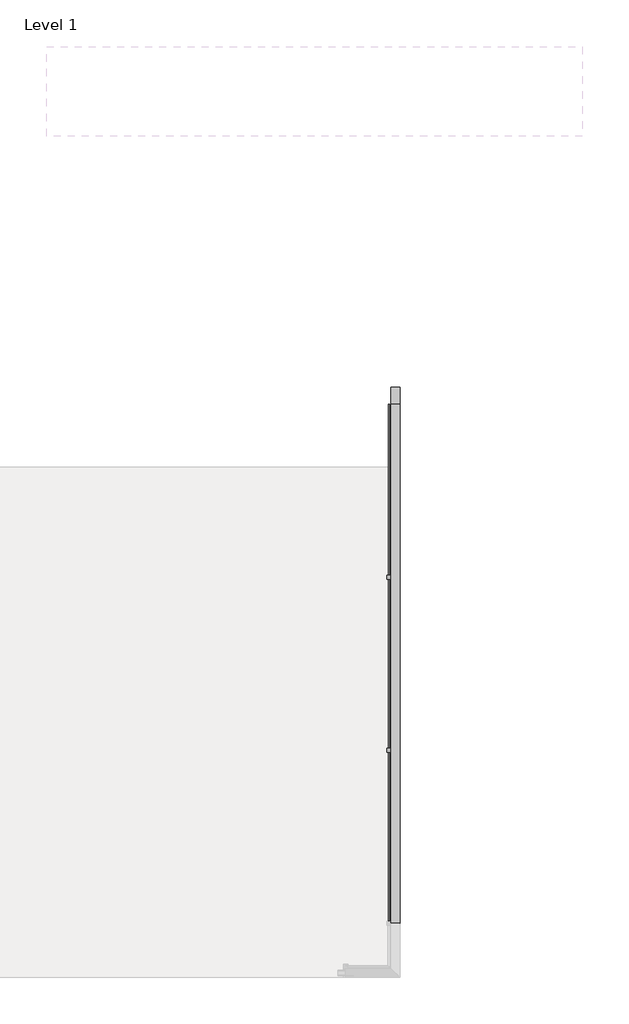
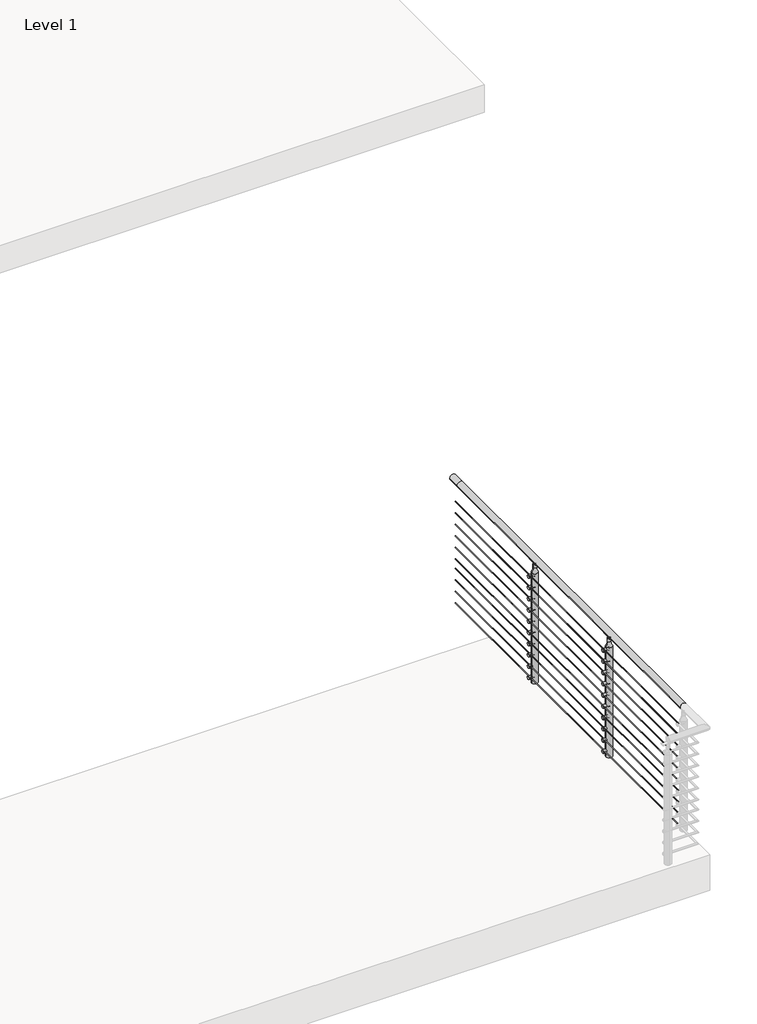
# One storey, part 7 of 21: 1 railing.
"""IFC4 building model written with IfcOpenShell, lengths in millimetres."""

import ifcopenshell
import ifcopenshell.guid

model = None  # the IFC model being written
_history = None  # IfcOwnerHistory: only IFC2X3 demands one
_inside = {}  # id of a spatial element -> (the spatial element, [elements in it])
_under = {}  # id of a project, library or spatial element -> (it, [spatial elements below it])
_declared = {}  # id of a project -> (the project, [libraries it declares])
_typed = {}  # id of a type object -> (the type object, [elements of that type])
_made_of = {}  # id of a material, layer set ... -> (it, [elements and type objects made of it])


def new_model(schema):
    """Start an empty IFC model of exactly this schema.

    Asked for "IFC4X3", IfcOpenShell would pick the latest addendum, in which some entities
    have other attributes; the version numbers below select the first issue.
    IFC2X3 requires an IfcOwnerHistory on every rooted entity: one is made here for all.
    """
    global model, _history
    if schema == "IFC4X3":
        model = ifcopenshell.file(schema_version=(4, 3, 0, 0))
    else:
        model = ifcopenshell.file(schema=schema)
    _inside.clear()
    _under.clear()
    _declared.clear()
    _typed.clear()
    _made_of.clear()
    _history = None
    if model.schema == "IFC2X3":
        org = make("IfcOrganization", Name="unknown")
        user = make(
            "IfcPersonAndOrganization",
            ThePerson=make("IfcPerson", FamilyName="unknown"),
            TheOrganization=org,
        )
        app = make(
            "IfcApplication",
            ApplicationDeveloper=org,
            Version="unknown",
            ApplicationFullName="unknown",
            ApplicationIdentifier="unknown",
        )
        _history = make(
            "IfcOwnerHistory",
            OwningUser=user,
            OwningApplication=app,
            ChangeAction="ADDED",
            CreationDate=0,
        )
    return model


def make(cls, **values):
    """One entity of the class cls with the attributes given. An attribute that is None is left unset."""
    return model.create_entity(
        cls, **{name: value for name, value in values.items() if value is not None}
    )


def rooted(cls, **values):
    """An entity with a GlobalId (a new one), such as an element, a storey or a relation."""
    return make(cls, GlobalId=ifcopenshell.guid.new(), OwnerHistory=_history, **values)


def si_unit(unit_type, name, prefix=None):
    """IfcSIUnit, for example si_unit("LENGTHUNIT", "METRE", prefix="MILLI")."""
    return make("IfcSIUnit", UnitType=unit_type, Prefix=prefix, Name=name)


def assignment(units):
    """IfcUnitAssignment: the units of a project."""
    return None if units is None else make("IfcUnitAssignment", Units=units)


def point(xyz):
    """IfcCartesianPoint."""
    return None if xyz is None else make("IfcCartesianPoint", Coordinates=xyz)


def direction(xyz):
    """IfcDirection."""
    return None if xyz is None else make("IfcDirection", DirectionRatios=xyz)


def frame(location, z_axis=None, x_axis=None):
    """IfcAxis2Placement3D, a coordinate frame: its origin and axes. An axis left out is left unset."""
    return make(
        "IfcAxis2Placement3D",
        Location=point(location),
        Axis=direction(z_axis),
        RefDirection=direction(x_axis),
    )


def frame_2d(location, x_axis=None):
    """IfcAxis2Placement2D, a coordinate frame in the plane: its origin and x axis."""
    return make(
        "IfcAxis2Placement2D", Location=point(location), RefDirection=direction(x_axis)
    )


def origin():
    """The frame at (0, 0, 0) with its axes left unset."""
    return frame((0.0, 0.0, 0.0))


def place(relative_to, where):
    """IfcLocalPlacement: puts the frame where relative to a parent placement (None: the world)."""
    return make(
        "IfcLocalPlacement", PlacementRelTo=relative_to, RelativePlacement=where
    )


def context(
    kind, dimensions, precision=None, world=None, true_north=None, identifier=None
):
    """IfcGeometricRepresentationContext, for example the 3D "Model" context."""
    return make(
        "IfcGeometricRepresentationContext",
        ContextIdentifier=identifier,
        ContextType=kind,
        CoordinateSpaceDimension=dimensions,
        Precision=precision,
        WorldCoordinateSystem=world,
        TrueNorth=true_north,
    )


def project(units=None, contexts=None):
    """IfcProject with its units and contexts."""
    return rooted(
        "IfcProject",
        Name="project",
        RepresentationContexts=contexts,
        UnitsInContext=assignment(units),
    )


def spatial(cls, under=None, at=None, **own):
    """A site, building, storey or space (cls), placed at a placement, below another one or the project."""
    s = rooted(cls, ObjectPlacement=at, **own)
    if under is not None:
        _under.setdefault(under.id(), (under, []))[1].append(s)
    return s


def polyline(points):
    """IfcPolyline through the points."""
    return make("IfcPolyline", Points=[point(p) for p in points])


def circle_curve(where, radius):
    """IfcCircle in the frame where."""
    return make("IfcCircle", Position=where, Radius=radius)


def ellipse_curve(where, semi_axis1, semi_axis2):
    """IfcEllipse in the frame where."""
    return make(
        "IfcEllipse", Position=where, SemiAxis1=semi_axis1, SemiAxis2=semi_axis2
    )


def trimmed(basis, trim1, trim2, sense, master):
    """IfcTrimmedCurve: the piece of a basis curve between two trims."""
    return make(
        "IfcTrimmedCurve",
        BasisCurve=basis,
        Trim1=trim1,
        Trim2=trim2,
        SenseAgreement=sense,
        MasterRepresentation=master,
    )


def segment(curve, same_sense, transition):
    """IfcCompositeCurveSegment."""
    return make(
        "IfcCompositeCurveSegment",
        Transition=transition,
        SameSense=same_sense,
        ParentCurve=curve,
    )


def composite_curve(segments, self_intersect=None):
    """IfcCompositeCurve: segments joined end to end."""
    return make("IfcCompositeCurve", Segments=segments, SelfIntersect=self_intersect)


def outline(outer, holes=None, kind="AREA"):
    """IfcArbitraryClosedProfileDef: a profile drawn as a closed curve; with holes, ...WithVoids."""
    if holes is None:
        return make("IfcArbitraryClosedProfileDef", ProfileType=kind, OuterCurve=outer)
    return make(
        "IfcArbitraryProfileDefWithVoids",
        ProfileType=kind,
        OuterCurve=outer,
        InnerCurves=holes,
    )


def extrude(swept, where, along, depth):
    """IfcExtrudedAreaSolid: the profile swept, set in the frame where, extruded along a direction by depth."""
    return make(
        "IfcExtrudedAreaSolid",
        SweptArea=swept,
        Position=where,
        ExtrudedDirection=direction(along),
        Depth=depth,
    )


def shape(context_of_items, identifier, shape_type, items):
    """IfcShapeRepresentation: the items that make up one representation, for example the "Body"."""
    return make(
        "IfcShapeRepresentation",
        ContextOfItems=context_of_items,
        RepresentationIdentifier=identifier,
        RepresentationType=shape_type,
        Items=items,
    )


def made_of(thing, what):
    """Note that an element or type object is made of a material, layer set ...; save() writes the relation."""
    if what is not None:
        _made_of.setdefault(what.id(), (what, []))[1].append(thing)
    return thing


def element(
    cls,
    number,
    at=None,
    inside=None,
    cuts=None,
    type_object=None,
    material=None,
    context=None,
    identifier="Body",
    shape_type=None,
    held_by="IfcProductDefinitionShape",
    body=None,
    shapes=None,
    **own,
):
    """One element of the class cls, such as IfcWall. Its Tag is "e" and its number.

    at: its placement. inside: the storey or other place that contains it. cuts: it is an
    opening in that element (IfcRelVoidsElement). A single representation is given by context,
    identifier, shape_type and body (its items); several are given by shapes. held_by: the class
    of the entity that holds the representations. save() writes the other relations.
    """
    e = rooted(cls, Tag="e%d" % number, ObjectPlacement=at, **own)
    if body is not None:
        shapes = [shape(context, identifier, shape_type, body)]
    if shapes is not None:
        e.Representation = make(held_by, Representations=shapes)
    if inside is not None:
        _inside.setdefault(inside.id(), (inside, []))[1].append(e)
    if cuts is not None:
        rooted(
            "IfcRelVoidsElement", RelatingBuildingElement=cuts, RelatedOpeningElement=e
        )
    if type_object is not None:
        _typed.setdefault(type_object.id(), (type_object, []))[1].append(e)
    return made_of(e, material)


def aggregate(whole, parts):
    """IfcRelAggregates: a whole, such as a stair, and the parts it consists of."""
    return rooted("IfcRelAggregates", RelatingObject=whole, RelatedObjects=parts)


def save(model, path):
    """Write the relations noted so far, then the file.

    IfcRelAggregates (storeys below a building ...), IfcRelContainedInSpatialStructure (elements
    in a storey), IfcRelDefinesByType, IfcRelAssociatesMaterial and IfcRelDeclares: one each for
    every whole, place, type object, material and project.
    """
    for whole, parts in _under.values():
        aggregate(whole, parts)
    for where, things in _inside.values():
        rooted(
            "IfcRelContainedInSpatialStructure",
            RelatedElements=things,
            RelatingStructure=where,
        )
    for kind, things in _typed.values():
        rooted("IfcRelDefinesByType", RelatedObjects=things, RelatingType=kind)
    for what, things in _made_of.values():
        rooted("IfcRelAssociatesMaterial", RelatedObjects=things, RelatingMaterial=what)
    for by, libraries in _declared.values():
        rooted("IfcRelDeclares", RelatingContext=by, RelatedDefinitions=libraries)
    model.write(path)


def plane_surface(at):
    """IfcPlane: the flat surface through the origin of the frame at, square to its z axis."""
    return make("IfcPlane", Position=at)


def cylinder_surface(at, radius):
    """IfcCylindricalSurface: all points at the distance radius from the z axis of the frame at."""
    return make("IfcCylindricalSurface", Position=at, Radius=radius)


def revolved_surface(curve, axis_point, axis_direction):
    """IfcSurfaceOfRevolution: the curve turned about the line through axis_point along axis_direction."""
    return make(
        "IfcSurfaceOfRevolution",
        SweptCurve=make("IfcArbitraryOpenProfileDef", ProfileType="CURVE", Curve=curve),
        AxisPosition=make("IfcAxis1Placement", Location=point(axis_point), Axis=direction(axis_direction)),
    )


def advanced_brep(points, edges, surfaces, faces):
    """IfcAdvancedBrep: a solid bounded by faces that lie on surfaces and meet in shared edges.

    An edge is (start, end): straight between two places in points (the first is 0);
    or (start, end, curve); or (start, end, curve, False) where it runs against its curve.
    A face is (place in surfaces, loops), or (place, loops, False) where it looks against
    its surface's normal. A loop lists edges by number (the first is 1), with a minus sign
    where the edge is run from its end to its start. The first loop is the outer one.
    """
    corners = [point(p) for p in points]
    vertices = [make("IfcVertexPoint", VertexGeometry=c) for c in corners]
    made = []
    for start, end, *more in edges:
        made.append(
            make(
                "IfcEdgeCurve",
                EdgeStart=vertices[start],
                EdgeEnd=vertices[end],
                EdgeGeometry=more[0] if more else make("IfcPolyline", Points=[corners[start], corners[end]]),
                SameSense=more[1] if len(more) > 1 else True,
            )
        )
    hull = []
    for where, loops, *sense in faces:
        bounds = []
        for j, loop in enumerate(loops):
            ring = [make("IfcOrientedEdge", EdgeElement=made[abs(k) - 1], Orientation=k > 0) for k in loop]
            bounds.append(
                make(
                    "IfcFaceOuterBound" if j == 0 else "IfcFaceBound",
                    Bound=make("IfcEdgeLoop", EdgeList=ring),
                    Orientation=True,
                )
            )
        hull.append(make("IfcAdvancedFace", Bounds=bounds, FaceSurface=surfaces[where], SameSense=sense[0] if sense else True))
    return make("IfcAdvancedBrep", Outer=make("IfcClosedShell", CfsFaces=hull))


model = new_model("IFC4")

# Units and contexts
model_context = context("Model", 3, world=origin())
ifc_project = project(units=[si_unit("LENGTHUNIT", "METRE", prefix="MILLI")], contexts=[model_context])

# Site, building, storey
site = spatial("IfcSite", under=ifc_project)
building = spatial("IfcBuilding", under=site)
storey = spatial("IfcBuildingStorey", under=building, Name="Level 1", Elevation=0.0)

# Railing
placement = place(None, origin())
element("IfcRailing", 1, ObjectType="VIVA-CIRCA-Multiline-Cable-Weld Mount-Straight", at=placement, inside=storey, context=model_context, shape_type="SolidModel", body=[
    advanced_brep(
    [(45346.7855247, -73467.0943064, 1054.1), (45295.9855247, -73467.0943064, 1054.1), (45346.7855247, -70419.0943064, 1054.1), (45295.9855247, -70419.0943064, 1054.1), (45346.7855247, -70317.4943064, 1054.1), (45295.9855247, -70317.4943064, 1054.1)],
    [
        (0, 1, circle_curve(frame((45321.3855247, -73467.0943064, 1054.1), z_axis=(0.0, -1.0, 0.0), x_axis=(-1.0, 0.0, 0.0)), 25.4)),
        (1, 0, circle_curve(frame((45321.3855247, -73467.0943064, 1054.1), z_axis=(0.0, -1.0, 0.0), x_axis=(-1.0, 0.0, 0.0)), 25.4)),
        (0, 2),
        (2, 3, circle_curve(frame((45321.3855247, -70419.0943064, 1054.1), z_axis=(0.0, -1.0, 0.0), x_axis=(-1.0, 0.0, 0.0)), 25.4)),
        (3, 1),
        (3, 2, circle_curve(frame((45321.3855247, -70419.0943064, 1054.1), z_axis=(0.0, -1.0, 0.0), x_axis=(-1.0, 0.0, 0.0)), 25.4)),
        (4, 5, circle_curve(frame((45321.3855247, -70317.4943064, 1054.1), z_axis=(0.0, 1.0, 0.0), x_axis=(-1.0, 0.0, 0.0)), 25.4)),
        (5, 4, circle_curve(frame((45321.3855247, -70317.4943064, 1054.1), z_axis=(0.0, 1.0, 0.0), x_axis=(-1.0, 0.0, 0.0)), 25.4)),
        (2, 4),
        (5, 3),
    ],
    [
        plane_surface(frame((45321.3855247, -73467.0943064, 1079.5), z_axis=(0.0, -1.0, 0.0), x_axis=(0.0, 0.0, 1.0))),
        cylinder_surface(frame((45321.3855247, -73467.0943064, 1054.1), z_axis=(0.0, -1.0, 0.0), x_axis=(-1.0, 0.0, 0.0)), 25.4),
        plane_surface(frame((45321.3855247, -70317.4943064, 1079.5), z_axis=(0.0, 1.0, 0.0), x_axis=(0.0, 0.0, 1.0))),
        cylinder_surface(frame((45321.3855247, -70419.0943064, 1054.1), z_axis=(0.0, -1.0, 0.0), x_axis=(-1.0, 0.0, 0.0)), 25.4),
    ],
    [
        (0, [[1, 2]]),
        (1, [[-1, 3, 4, 5]]),
        (1, [[-2, -5, 6, -3]]),
        (2, [[7, 8]]),
        (3, [[-4, 9, -8, 10]]),
        (3, [[-6, -10, -7, -9]]),
    ],
),
    extrude(outline(composite_curve([segment(trimmed(circle_curve(frame_2d((924.7124, 45283.2855247)), 2.3876), [point((924.7124, 45280.8979247))], [point((924.7124, 45285.6731247))], False, "CARTESIAN"), True, "CONTINUOUS"), segment(trimmed(circle_curve(frame_2d((924.7124, 45283.2855247)), 2.3876), [point((924.7124, 45285.6731247))], [point((924.7124, 45280.8979247))], False, "CARTESIAN"), True, "CONTINUOUS")], self_intersect=False)), frame((0.0, -73467.0943064, 0.0), z_axis=(0.0, 1.0, 0.0), x_axis=(0.0, 0.0, 1.0)), (0.0, 0.0, 1.0), 3048.0),
    extrude(outline(composite_curve([segment(trimmed(circle_curve(frame_2d((829.4624, 45283.2855247)), 2.3876), [point((829.4624, 45280.8979247))], [point((829.4624, 45285.6731247))], False, "CARTESIAN"), True, "CONTINUOUS"), segment(trimmed(circle_curve(frame_2d((829.4624, 45283.2855247)), 2.3876), [point((829.4624, 45285.6731247))], [point((829.4624, 45280.8979247))], False, "CARTESIAN"), True, "CONTINUOUS")], self_intersect=False)), frame((0.0, -73467.0943064, 0.0), z_axis=(0.0, 1.0, 0.0), x_axis=(0.0, 0.0, 1.0)), (0.0, 0.0, 1.0), 3048.0),
    extrude(outline(composite_curve([segment(trimmed(circle_curve(frame_2d((734.2124, 45283.2855247)), 2.3876), [point((734.2124, 45280.8979247))], [point((734.2124, 45285.6731247))], False, "CARTESIAN"), True, "CONTINUOUS"), segment(trimmed(circle_curve(frame_2d((734.2124, 45283.2855247)), 2.3876), [point((734.2124, 45285.6731247))], [point((734.2124, 45280.8979247))], False, "CARTESIAN"), True, "CONTINUOUS")], self_intersect=False)), frame((0.0, -73467.0943064, 0.0), z_axis=(0.0, 1.0, 0.0), x_axis=(0.0, 0.0, 1.0)), (0.0, 0.0, 1.0), 3048.0),
    extrude(outline(composite_curve([segment(trimmed(circle_curve(frame_2d((638.9624, 45283.2855247)), 2.3876), [point((638.9624, 45280.8979247))], [point((638.9624, 45285.6731247))], False, "CARTESIAN"), True, "CONTINUOUS"), segment(trimmed(circle_curve(frame_2d((638.9624, 45283.2855247)), 2.3876), [point((638.9624, 45285.6731247))], [point((638.9624, 45280.8979247))], False, "CARTESIAN"), True, "CONTINUOUS")], self_intersect=False)), frame((0.0, -73467.0943064, 0.0), z_axis=(0.0, 1.0, 0.0), x_axis=(0.0, 0.0, 1.0)), (0.0, 0.0, 1.0), 3048.0),
    extrude(outline(composite_curve([segment(trimmed(circle_curve(frame_2d((543.7124, 45283.2855247)), 2.3876), [point((543.7124, 45280.8979247))], [point((543.7124, 45285.6731247))], False, "CARTESIAN"), True, "CONTINUOUS"), segment(trimmed(circle_curve(frame_2d((543.7124, 45283.2855247)), 2.3876), [point((543.7124, 45285.6731247))], [point((543.7124, 45280.8979247))], False, "CARTESIAN"), True, "CONTINUOUS")], self_intersect=False)), frame((0.0, -73467.0943064, 0.0), z_axis=(0.0, 1.0, 0.0), x_axis=(0.0, 0.0, 1.0)), (0.0, 0.0, 1.0), 3048.0),
    extrude(outline(composite_curve([segment(trimmed(circle_curve(frame_2d((448.4624, 45283.2855247)), 2.3876), [point((448.4624, 45280.8979247))], [point((448.4624, 45285.6731247))], False, "CARTESIAN"), True, "CONTINUOUS"), segment(trimmed(circle_curve(frame_2d((448.4624, 45283.2855247)), 2.3876), [point((448.4624, 45285.6731247))], [point((448.4624, 45280.8979247))], False, "CARTESIAN"), True, "CONTINUOUS")], self_intersect=False)), frame((0.0, -73467.0943064, 0.0), z_axis=(0.0, 1.0, 0.0), x_axis=(0.0, 0.0, 1.0)), (0.0, 0.0, 1.0), 3048.0),
    extrude(outline(composite_curve([segment(trimmed(circle_curve(frame_2d((365.9124, 45283.2855247)), 2.3876), [point((365.9124, 45280.8979247))], [point((365.9124, 45285.6731247))], False, "CARTESIAN"), True, "CONTINUOUS"), segment(trimmed(circle_curve(frame_2d((365.9124, 45283.2855247)), 2.3876), [point((365.9124, 45285.6731247))], [point((365.9124, 45280.8979247))], False, "CARTESIAN"), True, "CONTINUOUS")], self_intersect=False)), frame((0.0, -73467.0943064, 0.0), z_axis=(0.0, 1.0, 0.0), x_axis=(0.0, 0.0, 1.0)), (0.0, 0.0, 1.0), 3048.0),
    extrude(outline(composite_curve([segment(trimmed(circle_curve(frame_2d((270.6624, 45283.2855247)), 2.3876), [point((270.6624, 45280.8979247))], [point((270.6624, 45285.6731247))], False, "CARTESIAN"), True, "CONTINUOUS"), segment(trimmed(circle_curve(frame_2d((270.6624, 45283.2855247)), 2.3876), [point((270.6624, 45285.6731247))], [point((270.6624, 45280.8979247))], False, "CARTESIAN"), True, "CONTINUOUS")], self_intersect=False)), frame((0.0, -73467.0943064, 0.0), z_axis=(0.0, 1.0, 0.0), x_axis=(0.0, 0.0, 1.0)), (0.0, 0.0, 1.0), 3048.0),
    extrude(outline(composite_curve([segment(trimmed(circle_curve(frame_2d((175.4124, 45283.2855247)), 2.3876), [point((175.4124, 45280.8979247))], [point((175.4124, 45285.6731247))], False, "CARTESIAN"), True, "CONTINUOUS"), segment(trimmed(circle_curve(frame_2d((175.4124, 45283.2855247)), 2.3876), [point((175.4124, 45285.6731247))], [point((175.4124, 45280.8979247))], False, "CARTESIAN"), True, "CONTINUOUS")], self_intersect=False)), frame((0.0, -73467.0943064, 0.0), z_axis=(0.0, 1.0, 0.0), x_axis=(0.0, 0.0, 1.0)), (0.0, 0.0, 1.0), 3048.0),
    extrude(outline(composite_curve([segment(trimmed(circle_curve(frame_2d((80.1624, 45283.2855247)), 2.3876), [point((80.1624, 45280.8979247))], [point((80.1624, 45285.6731247))], False, "CARTESIAN"), True, "CONTINUOUS"), segment(trimmed(circle_curve(frame_2d((80.1624, 45283.2855247)), 2.3876), [point((80.1624, 45285.6731247))], [point((80.1624, 45280.8979247))], False, "CARTESIAN"), True, "CONTINUOUS")], self_intersect=False)), frame((0.0, -73467.0943064, 0.0), z_axis=(0.0, 1.0, 0.0), x_axis=(0.0, 0.0, 1.0)), (0.0, 0.0, 1.0), 3048.0),
    extrude(outline(composite_curve([segment(trimmed(circle_curve(frame_2d((-71434.3005564, 76.2)), 12.666458), [point((-71421.6340985, 76.2))], [point((-71446.9670144, 76.2))], False, "CARTESIAN"), True, "CONTINUOUS"), segment(trimmed(circle_curve(frame_2d((-71434.3005564, 76.2)), 12.666458), [point((-71446.9670144, 76.2))], [point((-71421.6340985, 76.2))], False, "CARTESIAN"), True, "CONTINUOUS")], self_intersect=False)), frame((45270.5855247, 0.0, 0.0), z_axis=(1.0, 0.0, 0.0), x_axis=(0.0, 1.0, 0.0)), (0.0, 0.0, 1.0), 50.8),
    extrude(outline(composite_curve([segment(trimmed(circle_curve(frame_2d((-71434.3005564, 170.0388889)), 12.666458), [point((-71421.6340985, 170.0388889))], [point((-71446.9670144, 170.0388889))], False, "CARTESIAN"), True, "CONTINUOUS"), segment(trimmed(circle_curve(frame_2d((-71434.3005564, 170.0388889)), 12.666458), [point((-71446.9670144, 170.0388889))], [point((-71421.6340985, 170.0388889))], False, "CARTESIAN"), True, "CONTINUOUS")], self_intersect=False)), frame((45270.5855247, 0.0, 0.0), z_axis=(1.0, 0.0, 0.0), x_axis=(0.0, 1.0, 0.0)), (0.0, 0.0, 1.0), 50.8),
    extrude(outline(composite_curve([segment(trimmed(circle_curve(frame_2d((-71434.3005564, 263.8777778)), 12.666458), [point((-71421.6340985, 263.8777778))], [point((-71446.9670144, 263.8777778))], False, "CARTESIAN"), True, "CONTINUOUS"), segment(trimmed(circle_curve(frame_2d((-71434.3005564, 263.8777778)), 12.666458), [point((-71446.9670144, 263.8777778))], [point((-71421.6340985, 263.8777778))], False, "CARTESIAN"), True, "CONTINUOUS")], self_intersect=False)), frame((45270.5855247, 0.0, 0.0), z_axis=(1.0, 0.0, 0.0), x_axis=(0.0, 1.0, 0.0)), (0.0, 0.0, 1.0), 50.8),
    extrude(outline(composite_curve([segment(trimmed(circle_curve(frame_2d((-71434.3005564, 357.7166667)), 12.666458), [point((-71421.6340985, 357.7166667))], [point((-71446.9670144, 357.7166667))], False, "CARTESIAN"), True, "CONTINUOUS"), segment(trimmed(circle_curve(frame_2d((-71434.3005564, 357.7166667)), 12.666458), [point((-71446.9670144, 357.7166667))], [point((-71421.6340985, 357.7166667))], False, "CARTESIAN"), True, "CONTINUOUS")], self_intersect=False)), frame((45270.5855247, 0.0, 0.0), z_axis=(1.0, 0.0, 0.0), x_axis=(0.0, 1.0, 0.0)), (0.0, 0.0, 1.0), 50.8),
    extrude(outline(composite_curve([segment(trimmed(circle_curve(frame_2d((-71434.3005564, 451.5555556)), 12.666458), [point((-71421.6340985, 451.5555556))], [point((-71446.9670144, 451.5555556))], False, "CARTESIAN"), True, "CONTINUOUS"), segment(trimmed(circle_curve(frame_2d((-71434.3005564, 451.5555556)), 12.666458), [point((-71446.9670144, 451.5555556))], [point((-71421.6340985, 451.5555556))], False, "CARTESIAN"), True, "CONTINUOUS")], self_intersect=False)), frame((45270.5855247, 0.0, 0.0), z_axis=(1.0, 0.0, 0.0), x_axis=(0.0, 1.0, 0.0)), (0.0, 0.0, 1.0), 50.8),
    extrude(outline(composite_curve([segment(trimmed(circle_curve(frame_2d((-71434.3005564, 545.3944444)), 12.666458), [point((-71421.6340985, 545.3944444))], [point((-71446.9670144, 545.3944444))], False, "CARTESIAN"), True, "CONTINUOUS"), segment(trimmed(circle_curve(frame_2d((-71434.3005564, 545.3944444)), 12.666458), [point((-71446.9670144, 545.3944444))], [point((-71421.6340985, 545.3944444))], False, "CARTESIAN"), True, "CONTINUOUS")], self_intersect=False)), frame((45270.5855247, 0.0, 0.0), z_axis=(1.0, 0.0, 0.0), x_axis=(0.0, 1.0, 0.0)), (0.0, 0.0, 1.0), 50.8),
    extrude(outline(composite_curve([segment(trimmed(circle_curve(frame_2d((-71434.3005564, 639.2333333)), 12.666458), [point((-71421.6340985, 639.2333333))], [point((-71446.9670144, 639.2333333))], False, "CARTESIAN"), True, "CONTINUOUS"), segment(trimmed(circle_curve(frame_2d((-71434.3005564, 639.2333333)), 12.666458), [point((-71446.9670144, 639.2333333))], [point((-71421.6340985, 639.2333333))], False, "CARTESIAN"), True, "CONTINUOUS")], self_intersect=False)), frame((45270.5855247, 0.0, 0.0), z_axis=(1.0, 0.0, 0.0), x_axis=(0.0, 1.0, 0.0)), (0.0, 0.0, 1.0), 50.8),
    extrude(outline(composite_curve([segment(trimmed(circle_curve(frame_2d((-71434.3005564, 733.0722222)), 12.666458), [point((-71421.6340985, 733.0722222))], [point((-71446.9670144, 733.0722222))], False, "CARTESIAN"), True, "CONTINUOUS"), segment(trimmed(circle_curve(frame_2d((-71434.3005564, 733.0722222)), 12.666458), [point((-71446.9670144, 733.0722222))], [point((-71421.6340985, 733.0722222))], False, "CARTESIAN"), True, "CONTINUOUS")], self_intersect=False)), frame((45270.5855247, 0.0, 0.0), z_axis=(1.0, 0.0, 0.0), x_axis=(0.0, 1.0, 0.0)), (0.0, 0.0, 1.0), 50.8),
    extrude(outline(composite_curve([segment(trimmed(circle_curve(frame_2d((-71434.3005564, 920.75)), 12.666458), [point((-71421.6340985, 920.75))], [point((-71446.9670144, 920.75))], False, "CARTESIAN"), True, "CONTINUOUS"), segment(trimmed(circle_curve(frame_2d((-71434.3005564, 920.75)), 12.666458), [point((-71446.9670144, 920.75))], [point((-71421.6340985, 920.75))], False, "CARTESIAN"), True, "CONTINUOUS")], self_intersect=False)), frame((45270.5855247, 0.0, 0.0), z_axis=(1.0, 0.0, 0.0), x_axis=(0.0, 1.0, 0.0)), (0.0, 0.0, 1.0), 50.8),
    extrude(outline(composite_curve([segment(trimmed(circle_curve(frame_2d((-71434.3005564, 826.9111111)), 12.666458), [point((-71421.6340985, 826.9111111))], [point((-71446.9670144, 826.9111111))], False, "CARTESIAN"), True, "CONTINUOUS"), segment(trimmed(circle_curve(frame_2d((-71434.3005564, 826.9111111)), 12.666458), [point((-71446.9670144, 826.9111111))], [point((-71421.6340985, 826.9111111))], False, "CARTESIAN"), True, "CONTINUOUS")], self_intersect=False)), frame((45270.5855247, 0.0, 0.0), z_axis=(1.0, 0.0, 0.0), x_axis=(0.0, 1.0, 0.0)), (0.0, 0.0, 1.0), 50.8),
    extrude(outline(composite_curve([segment(trimmed(circle_curve(frame_2d((1055.4254922, 45321.2887963)), 25.4345159), [point((1033.3106679, 45333.8525992))], [point((1033.2157471, 45308.8935626))], True, "CARTESIAN"), True, "CONTINUOUS"), segment(trimmed(circle_curve(frame_2d((1030.7132623, 45307.6489094)), 2.7949225), [point((1033.2157471, 45308.8935626))], [point((1028.3406769, 45306.1716044))], False, "CARTESIAN"), True, "CONTINUOUS"), segment(trimmed(circle_curve(frame_2d((1056.1881188, 45321.4222594)), 31.75), [point((1028.3406769, 45306.1716044))], [point((1028.9214354, 45337.6884966))], False, "CARTESIAN"), True, "CONTINUOUS"), segment(trimmed(circle_curve(frame_2d((1030.7923545, 45335.4001569)), 2.9558141), [point((1028.9214354, 45337.6884966))], [point((1033.3106679, 45333.8525992))], False, "CARTESIAN"), True, "CONTINUOUS")], self_intersect=False)), frame((0.0, -71479.9348314, 0.0), z_axis=(0.0, 1.0, 0.0), x_axis=(0.0, 0.0, 1.0)), (0.0, 0.0, 1.0), 90.4748),
    extrude(outline(composite_curve([segment(trimmed(circle_curve(frame_2d((-71407.6295165, 1010.282776)), 14.3679149), [point((-71407.6295165, 1024.6506908))], [point((-71421.9974314, 1010.282776))], True, "CARTESIAN"), True, "CONTINUOUS"), segment(trimmed(circle_curve(frame_2d((-71434.6974314, 1010.282776)), 12.7), [point((-71421.9974314, 1010.282776))], [point((-71447.3974314, 1010.282776))], False, "CARTESIAN"), True, "CONTINUOUS"), segment(trimmed(circle_curve(frame_2d((-71461.7653463, 1010.282776)), 14.3679149), [point((-71447.3974314, 1010.282776))], [point((-71461.7653463, 1024.6506908))], True, "CARTESIAN"), True, "CONTINUOUS"), segment(polyline([(-71461.7653463, 1024.6506908), (-71407.6295165, 1024.6506908)]), True, "CONTINUOUS")], self_intersect=False)), frame((45318.8455247, 0.0, 0.0), z_axis=(1.0, 0.0, 0.0), x_axis=(0.0, 1.0, 0.0)), (0.0, 0.0, 1.0), 5.08),
    advanced_brep(
    [(45346.7849225, -71434.6974314, 941.1347854), (45295.9861269, -71434.6974314, 941.1347854), (45295.9861269, -71434.6974314, 25.4), (45346.7849225, -71434.6974314, 25.4), (45334.1234932, -71434.6974314, 979.3486202), (45308.6475562, -71434.6974314, 979.3486202), (45334.1234932, -71434.6974314, 1008.5779599), (45308.6475562, -71434.6974314, 1008.5779599), (45321.3855247, -71434.6974314, 1015.238668), (45321.3855247, -71434.6974314, 25.4)],
    [
        (0, 1, circle_curve(frame((45321.3855247, -71434.6974314, 941.1347854), z_axis=(0.0, 0.0, -1.0), x_axis=(-1.0, 0.0, 0.0)), 25.3993978)),
        (1, 2),
        (2, 3, circle_curve(frame((45321.3855247, -71434.6974314, 25.4), z_axis=(0.0, 0.0, 1.0), x_axis=(-1.0, 0.0, 0.0)), 25.3993978)),
        (3, 0),
        (1, 0, circle_curve(frame((45321.3855247, -71434.6974314, 941.1347854), z_axis=(0.0, 0.0, -1.0), x_axis=(-1.0, 0.0, 0.0)), 25.3993978)),
        (3, 2, circle_curve(frame((45321.3855247, -71434.6974314, 25.4), z_axis=(0.0, 0.0, 1.0), x_axis=(-1.0, 0.0, 0.0)), 25.3993978)),
        (4, 5, circle_curve(frame((45321.3855247, -71434.6974314, 979.3486202), z_axis=(0.0, 0.0, -1.0), x_axis=(-1.0, 0.0, 0.0)), 12.7379685)),
        (5, 1, circle_curve(frame((45244.6496879, -71434.6974314, 979.3486202), z_axis=(0.0, 1.0, 0.0), x_axis=(-1.0, 0.0, 0.0)), 63.9978683)),
        (0, 4, circle_curve(frame((45398.1213615, -71434.6974314, 979.3486202), z_axis=(0.0, 1.0, 0.0), x_axis=(1.0, 0.0, 0.0)), 63.9978683)),
        (5, 4, circle_curve(frame((45321.3855247, -71434.6974314, 979.3486202), z_axis=(0.0, 0.0, -1.0), x_axis=(-1.0, 0.0, 0.0)), 12.7379685)),
        (6, 7, circle_curve(frame((45321.3855247, -71434.6974314, 1008.5779599), z_axis=(0.0, 0.0, -1.0), x_axis=(-1.0, 0.0, 0.0)), 12.7379685)),
        (7, 5),
        (4, 6),
        (7, 6, circle_curve(frame((45321.3855247, -71434.6974314, 1008.5779599), z_axis=(0.0, 0.0, -1.0), x_axis=(-1.0, 0.0, 0.0)), 12.7379685)),
        (8, 7, circle_curve(frame((45321.3855247, -71434.6974314, 999.7282394), z_axis=(0.0, -1.0, 0.0), x_axis=(-1.0, 0.0, 0.0)), 15.5104286)),
        (6, 8, circle_curve(frame((45321.3855247, -71434.6974314, 999.7282394), z_axis=(0.0, -1.0, 0.0), x_axis=(1.0, 0.0, 0.0)), 15.5104286)),
        (2, 9),
        (9, 3),
    ],
    [
        cylinder_surface(frame((45321.3855247, -71434.6974314, 1104.9), z_axis=(0.0, 0.0, 1.0), x_axis=(-1.0, 0.0, 0.0)), 25.3993978),
        revolved_surface(trimmed(ellipse_curve(frame((45244.6496879, -71434.6974314, 979.3486202), z_axis=(0.0, -1.0, 0.0), x_axis=(-1.0, 0.0, 0.0)), 63.9978683, 63.9978683), [point((45295.9861269, -71434.6974314, 941.1347854))], [point((45308.6475562, -71434.6974314, 979.3486202))], True, "CARTESIAN"), (45321.3855247, -71434.6974314, 1104.9), (0.0, 0.0, 1.0)),
        cylinder_surface(frame((45321.3855247, -71434.6974314, 1104.9), z_axis=(0.0, 0.0, 1.0), x_axis=(-1.0, 0.0, 0.0)), 12.7379685),
        revolved_surface(trimmed(ellipse_curve(frame((45321.3855247, -71434.6974314, 999.7282394), z_axis=(0.0, 1.0, 0.0), x_axis=(-1.0, 0.0, 0.0)), 15.5104286, 15.5104286), [point((45308.6475562, -71434.6974314, 1008.5779599))], [point((45321.3855247, -71434.6974314, 1015.238668))], True, "CARTESIAN"), (45321.3855247, -71434.6974314, 1104.9), (0.0, 0.0, 1.0)),
        plane_surface(frame((45321.3855247, -71434.6974314, 25.4), z_axis=(0.0, 0.0, -1.0), x_axis=(-1.0, 0.0, 0.0))),
    ],
    [
        (0, [[1, 2, 3, 4]]),
        (0, [[5, -4, 6, -2]]),
        (1, [[7, 8, -1, 9]]),
        (1, [[10, -9, -5, -8]]),
        (2, [[11, 12, -7, 13]]),
        (2, [[14, -13, -10, -12]]),
        (3, [[15, -11, 16]]),
        (3, [[-16, -14, -15]]),
        (4, [[-3, 17, 18]]),
        (4, [[-6, -18, -17]]),
    ],
),
    extrude(outline(composite_curve([segment(trimmed(circle_curve(frame_2d((-72450.3005564, 76.2)), 12.666458), [point((-72437.6340985, 76.2))], [point((-72462.9670144, 76.2))], False, "CARTESIAN"), True, "CONTINUOUS"), segment(trimmed(circle_curve(frame_2d((-72450.3005564, 76.2)), 12.666458), [point((-72462.9670144, 76.2))], [point((-72437.6340985, 76.2))], False, "CARTESIAN"), True, "CONTINUOUS")], self_intersect=False)), frame((45270.5855247, 0.0, 0.0), z_axis=(1.0, 0.0, 0.0), x_axis=(0.0, 1.0, 0.0)), (0.0, 0.0, 1.0), 50.8),
    extrude(outline(composite_curve([segment(trimmed(circle_curve(frame_2d((-72450.3005564, 170.0388889)), 12.666458), [point((-72437.6340985, 170.0388889))], [point((-72462.9670144, 170.0388889))], False, "CARTESIAN"), True, "CONTINUOUS"), segment(trimmed(circle_curve(frame_2d((-72450.3005564, 170.0388889)), 12.666458), [point((-72462.9670144, 170.0388889))], [point((-72437.6340985, 170.0388889))], False, "CARTESIAN"), True, "CONTINUOUS")], self_intersect=False)), frame((45270.5855247, 0.0, 0.0), z_axis=(1.0, 0.0, 0.0), x_axis=(0.0, 1.0, 0.0)), (0.0, 0.0, 1.0), 50.8),
    extrude(outline(composite_curve([segment(trimmed(circle_curve(frame_2d((-72450.3005564, 263.8777778)), 12.666458), [point((-72437.6340985, 263.8777778))], [point((-72462.9670144, 263.8777778))], False, "CARTESIAN"), True, "CONTINUOUS"), segment(trimmed(circle_curve(frame_2d((-72450.3005564, 263.8777778)), 12.666458), [point((-72462.9670144, 263.8777778))], [point((-72437.6340985, 263.8777778))], False, "CARTESIAN"), True, "CONTINUOUS")], self_intersect=False)), frame((45270.5855247, 0.0, 0.0), z_axis=(1.0, 0.0, 0.0), x_axis=(0.0, 1.0, 0.0)), (0.0, 0.0, 1.0), 50.8),
    extrude(outline(composite_curve([segment(trimmed(circle_curve(frame_2d((-72450.3005564, 357.7166667)), 12.666458), [point((-72437.6340985, 357.7166667))], [point((-72462.9670144, 357.7166667))], False, "CARTESIAN"), True, "CONTINUOUS"), segment(trimmed(circle_curve(frame_2d((-72450.3005564, 357.7166667)), 12.666458), [point((-72462.9670144, 357.7166667))], [point((-72437.6340985, 357.7166667))], False, "CARTESIAN"), True, "CONTINUOUS")], self_intersect=False)), frame((45270.5855247, 0.0, 0.0), z_axis=(1.0, 0.0, 0.0), x_axis=(0.0, 1.0, 0.0)), (0.0, 0.0, 1.0), 50.8),
    extrude(outline(composite_curve([segment(trimmed(circle_curve(frame_2d((-72450.3005564, 451.5555556)), 12.666458), [point((-72437.6340985, 451.5555556))], [point((-72462.9670144, 451.5555556))], False, "CARTESIAN"), True, "CONTINUOUS"), segment(trimmed(circle_curve(frame_2d((-72450.3005564, 451.5555556)), 12.666458), [point((-72462.9670144, 451.5555556))], [point((-72437.6340985, 451.5555556))], False, "CARTESIAN"), True, "CONTINUOUS")], self_intersect=False)), frame((45270.5855247, 0.0, 0.0), z_axis=(1.0, 0.0, 0.0), x_axis=(0.0, 1.0, 0.0)), (0.0, 0.0, 1.0), 50.8),
    extrude(outline(composite_curve([segment(trimmed(circle_curve(frame_2d((-72450.3005564, 545.3944444)), 12.666458), [point((-72437.6340985, 545.3944444))], [point((-72462.9670144, 545.3944444))], False, "CARTESIAN"), True, "CONTINUOUS"), segment(trimmed(circle_curve(frame_2d((-72450.3005564, 545.3944444)), 12.666458), [point((-72462.9670144, 545.3944444))], [point((-72437.6340985, 545.3944444))], False, "CARTESIAN"), True, "CONTINUOUS")], self_intersect=False)), frame((45270.5855247, 0.0, 0.0), z_axis=(1.0, 0.0, 0.0), x_axis=(0.0, 1.0, 0.0)), (0.0, 0.0, 1.0), 50.8),
    extrude(outline(composite_curve([segment(trimmed(circle_curve(frame_2d((-72450.3005564, 639.2333333)), 12.666458), [point((-72437.6340985, 639.2333333))], [point((-72462.9670144, 639.2333333))], False, "CARTESIAN"), True, "CONTINUOUS"), segment(trimmed(circle_curve(frame_2d((-72450.3005564, 639.2333333)), 12.666458), [point((-72462.9670144, 639.2333333))], [point((-72437.6340985, 639.2333333))], False, "CARTESIAN"), True, "CONTINUOUS")], self_intersect=False)), frame((45270.5855247, 0.0, 0.0), z_axis=(1.0, 0.0, 0.0), x_axis=(0.0, 1.0, 0.0)), (0.0, 0.0, 1.0), 50.8),
    extrude(outline(composite_curve([segment(trimmed(circle_curve(frame_2d((-72450.3005564, 733.0722222)), 12.666458), [point((-72437.6340985, 733.0722222))], [point((-72462.9670144, 733.0722222))], False, "CARTESIAN"), True, "CONTINUOUS"), segment(trimmed(circle_curve(frame_2d((-72450.3005564, 733.0722222)), 12.666458), [point((-72462.9670144, 733.0722222))], [point((-72437.6340985, 733.0722222))], False, "CARTESIAN"), True, "CONTINUOUS")], self_intersect=False)), frame((45270.5855247, 0.0, 0.0), z_axis=(1.0, 0.0, 0.0), x_axis=(0.0, 1.0, 0.0)), (0.0, 0.0, 1.0), 50.8),
    extrude(outline(composite_curve([segment(trimmed(circle_curve(frame_2d((-72450.3005564, 920.75)), 12.666458), [point((-72437.6340985, 920.75))], [point((-72462.9670144, 920.75))], False, "CARTESIAN"), True, "CONTINUOUS"), segment(trimmed(circle_curve(frame_2d((-72450.3005564, 920.75)), 12.666458), [point((-72462.9670144, 920.75))], [point((-72437.6340985, 920.75))], False, "CARTESIAN"), True, "CONTINUOUS")], self_intersect=False)), frame((45270.5855247, 0.0, 0.0), z_axis=(1.0, 0.0, 0.0), x_axis=(0.0, 1.0, 0.0)), (0.0, 0.0, 1.0), 50.8),
    extrude(outline(composite_curve([segment(trimmed(circle_curve(frame_2d((-72450.3005564, 826.9111111)), 12.666458), [point((-72437.6340985, 826.9111111))], [point((-72462.9670144, 826.9111111))], False, "CARTESIAN"), True, "CONTINUOUS"), segment(trimmed(circle_curve(frame_2d((-72450.3005564, 826.9111111)), 12.666458), [point((-72462.9670144, 826.9111111))], [point((-72437.6340985, 826.9111111))], False, "CARTESIAN"), True, "CONTINUOUS")], self_intersect=False)), frame((45270.5855247, 0.0, 0.0), z_axis=(1.0, 0.0, 0.0), x_axis=(0.0, 1.0, 0.0)), (0.0, 0.0, 1.0), 50.8),
    extrude(outline(composite_curve([segment(trimmed(circle_curve(frame_2d((1055.4254922, 45321.2887963)), 25.4345159), [point((1033.3106679, 45333.8525992))], [point((1033.2157471, 45308.8935626))], True, "CARTESIAN"), True, "CONTINUOUS"), segment(trimmed(circle_curve(frame_2d((1030.7132623, 45307.6489094)), 2.7949225), [point((1033.2157471, 45308.8935626))], [point((1028.3406769, 45306.1716044))], False, "CARTESIAN"), True, "CONTINUOUS"), segment(trimmed(circle_curve(frame_2d((1056.1881188, 45321.4222594)), 31.75), [point((1028.3406769, 45306.1716044))], [point((1028.9214354, 45337.6884966))], False, "CARTESIAN"), True, "CONTINUOUS"), segment(trimmed(circle_curve(frame_2d((1030.7923545, 45335.4001569)), 2.9558141), [point((1028.9214354, 45337.6884966))], [point((1033.3106679, 45333.8525992))], False, "CARTESIAN"), True, "CONTINUOUS")], self_intersect=False)), frame((0.0, -72495.9348314, 0.0), z_axis=(0.0, 1.0, 0.0), x_axis=(0.0, 0.0, 1.0)), (0.0, 0.0, 1.0), 90.4748),
    extrude(outline(composite_curve([segment(trimmed(circle_curve(frame_2d((-72423.6295165, 1010.282776)), 14.3679149), [point((-72423.6295165, 1024.6506908))], [point((-72437.9974314, 1010.282776))], True, "CARTESIAN"), True, "CONTINUOUS"), segment(trimmed(circle_curve(frame_2d((-72450.6974314, 1010.282776)), 12.7), [point((-72437.9974314, 1010.282776))], [point((-72463.3974314, 1010.282776))], False, "CARTESIAN"), True, "CONTINUOUS"), segment(trimmed(circle_curve(frame_2d((-72477.7653463, 1010.282776)), 14.3679149), [point((-72463.3974314, 1010.282776))], [point((-72477.7653463, 1024.6506908))], True, "CARTESIAN"), True, "CONTINUOUS"), segment(polyline([(-72477.7653463, 1024.6506908), (-72423.6295165, 1024.6506908)]), True, "CONTINUOUS")], self_intersect=False)), frame((45318.8455247, 0.0, 0.0), z_axis=(1.0, 0.0, 0.0), x_axis=(0.0, 1.0, 0.0)), (0.0, 0.0, 1.0), 5.08),
    advanced_brep(
    [(45346.7849225, -72450.6974314, 941.1347854), (45295.9861269, -72450.6974314, 941.1347854), (45295.9861269, -72450.6974314, 25.4), (45346.7849225, -72450.6974314, 25.4), (45334.1234932, -72450.6974314, 979.3486202), (45308.6475562, -72450.6974314, 979.3486202), (45334.1234932, -72450.6974314, 1008.5779599), (45308.6475562, -72450.6974314, 1008.5779599), (45321.3855247, -72450.6974314, 1015.238668), (45321.3855247, -72450.6974314, 25.4)],
    [
        (0, 1, circle_curve(frame((45321.3855247, -72450.6974314, 941.1347854), z_axis=(0.0, 0.0, -1.0), x_axis=(-1.0, 0.0, 0.0)), 25.3993978)),
        (1, 2),
        (2, 3, circle_curve(frame((45321.3855247, -72450.6974314, 25.4), z_axis=(0.0, 0.0, 1.0), x_axis=(-1.0, 0.0, 0.0)), 25.3993978)),
        (3, 0),
        (1, 0, circle_curve(frame((45321.3855247, -72450.6974314, 941.1347854), z_axis=(0.0, 0.0, -1.0), x_axis=(-1.0, 0.0, 0.0)), 25.3993978)),
        (3, 2, circle_curve(frame((45321.3855247, -72450.6974314, 25.4), z_axis=(0.0, 0.0, 1.0), x_axis=(-1.0, 0.0, 0.0)), 25.3993978)),
        (4, 5, circle_curve(frame((45321.3855247, -72450.6974314, 979.3486202), z_axis=(0.0, 0.0, -1.0), x_axis=(-1.0, 0.0, 0.0)), 12.7379685)),
        (5, 1, circle_curve(frame((45244.6496879, -72450.6974314, 979.3486202), z_axis=(0.0, 1.0, 0.0), x_axis=(-1.0, 0.0, 0.0)), 63.9978683)),
        (0, 4, circle_curve(frame((45398.1213615, -72450.6974314, 979.3486202), z_axis=(0.0, 1.0, 0.0), x_axis=(1.0, 0.0, 0.0)), 63.9978683)),
        (5, 4, circle_curve(frame((45321.3855247, -72450.6974314, 979.3486202), z_axis=(0.0, 0.0, -1.0), x_axis=(-1.0, 0.0, 0.0)), 12.7379685)),
        (6, 7, circle_curve(frame((45321.3855247, -72450.6974314, 1008.5779599), z_axis=(0.0, 0.0, -1.0), x_axis=(-1.0, 0.0, 0.0)), 12.7379685)),
        (7, 5),
        (4, 6),
        (7, 6, circle_curve(frame((45321.3855247, -72450.6974314, 1008.5779599), z_axis=(0.0, 0.0, -1.0), x_axis=(-1.0, 0.0, 0.0)), 12.7379685)),
        (8, 7, circle_curve(frame((45321.3855247, -72450.6974314, 999.7282394), z_axis=(0.0, -1.0, 0.0), x_axis=(-1.0, 0.0, 0.0)), 15.5104286)),
        (6, 8, circle_curve(frame((45321.3855247, -72450.6974314, 999.7282394), z_axis=(0.0, -1.0, 0.0), x_axis=(1.0, 0.0, 0.0)), 15.5104286)),
        (2, 9),
        (9, 3),
    ],
    [
        cylinder_surface(frame((45321.3855247, -72450.6974314, 1104.9), z_axis=(0.0, 0.0, 1.0), x_axis=(-1.0, 0.0, 0.0)), 25.3993978),
        revolved_surface(trimmed(ellipse_curve(frame((45244.6496879, -72450.6974314, 979.3486202), z_axis=(0.0, -1.0, 0.0), x_axis=(-1.0, 0.0, 0.0)), 63.9978683, 63.9978683), [point((45295.9861269, -72450.6974314, 941.1347854))], [point((45308.6475562, -72450.6974314, 979.3486202))], True, "CARTESIAN"), (45321.3855247, -72450.6974314, 1104.9), (0.0, 0.0, 1.0)),
        cylinder_surface(frame((45321.3855247, -72450.6974314, 1104.9), z_axis=(0.0, 0.0, 1.0), x_axis=(-1.0, 0.0, 0.0)), 12.7379685),
        revolved_surface(trimmed(ellipse_curve(frame((45321.3855247, -72450.6974314, 999.7282394), z_axis=(0.0, 1.0, 0.0), x_axis=(-1.0, 0.0, 0.0)), 15.5104286, 15.5104286), [point((45308.6475562, -72450.6974314, 1008.5779599))], [point((45321.3855247, -72450.6974314, 1015.238668))], True, "CARTESIAN"), (45321.3855247, -72450.6974314, 1104.9), (0.0, 0.0, 1.0)),
        plane_surface(frame((45321.3855247, -72450.6974314, 25.4), z_axis=(0.0, 0.0, -1.0), x_axis=(-1.0, 0.0, 0.0))),
    ],
    [
        (0, [[1, 2, 3, 4]]),
        (0, [[5, -4, 6, -2]]),
        (1, [[7, 8, -1, 9]]),
        (1, [[10, -9, -5, -8]]),
        (2, [[11, 12, -7, 13]]),
        (2, [[14, -13, -10, -12]]),
        (3, [[15, -11, 16]]),
        (3, [[-16, -14, -15]]),
        (4, [[-3, 17, 18]]),
        (4, [[-6, -18, -17]]),
    ],
),
])

save(model, "model.ifc")
